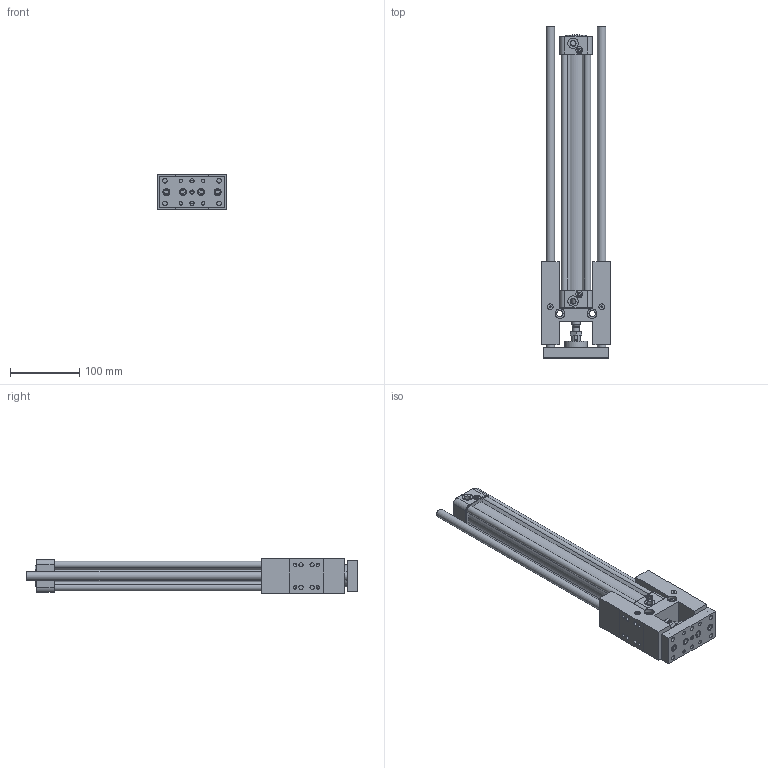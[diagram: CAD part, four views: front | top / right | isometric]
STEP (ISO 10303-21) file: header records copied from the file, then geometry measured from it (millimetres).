
FILE_DESCRIPTION((''),'2;1');
FILE_NAME('I:\3D電子目錄\氣缸\GHB(U)\GHB(U)\GHB(U)32\GHB(U)32x300.stp','2007-10-19T10:42:43',('Administrator'),(''),'Autodesk Inventor 11','Autodesk Inventor 11','');
FILE_SCHEMA(('AUTOMOTIVE_DESIGN { 1 0 10303 214 1 1 1 1 }'));
Length unit declared in the file: millimetre
Products named in the file (1): GHB(U)32
Bounding box: 99 x 479 x 50.2 mm (x, y, z)
Volume: 836904.3 mm3; surface area: 256463.5 mm2
Topology: 17 solids, 17 shells, 738 faces, 1598 edges, 986 vertices
Faces by surface type: plane 291, bspline 199, cylinder 159, cone 80, torus 9
Full cylindrical faces by diameter (mm): 2.6 x2, 4.9 x2, 4.917 x4, 5 x5, 5.5 x10, 6 x11, 6.5 x8, 7.5 x1, 7.8 x4, 7.9 x3, 8 x5, 9 x8, 10 x7, 10.2 x8, 12 x4, 13 x1, 14 x1, 15 x2, 17 x2, 30 x1, 32 x1, 33 x1
Entity records: 20771 total; most frequent: CARTESIAN_POINT 6160, DIRECTION 2934, ORIENTED_EDGE 2754, EDGE_CURVE 1377, AXIS2_PLACEMENT_3D 1157, EDGE_LOOP 1056, VERTEX_POINT 953, FACE_OUTER_BOUND 738
